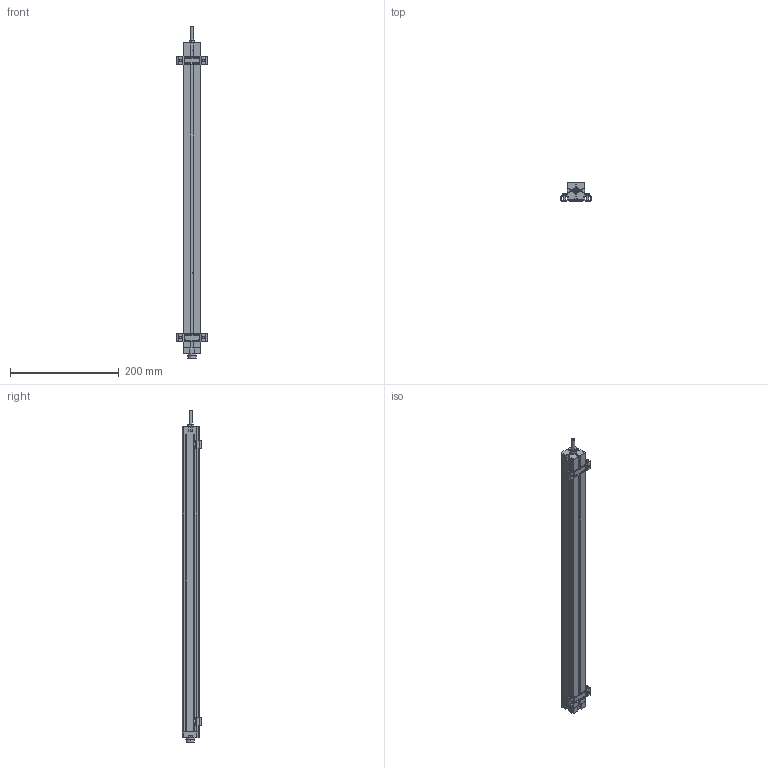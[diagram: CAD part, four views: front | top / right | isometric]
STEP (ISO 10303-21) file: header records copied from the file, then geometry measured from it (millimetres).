
FILE_DESCRIPTION(('STEP AP214'),'1');
FILE_NAME('burster_8719-5500_6k4t9c2r8fkqitrqe98f4eeec.stp','2017-04-19T12:55:02',('TraceParts'),('TraceParts S.A.'),'Spatial InterOp 3D',' ',' ');
FILE_SCHEMA(('automotive_design'));
Length unit declared in the file: millimetre
Products named in the file (1): burster_8719-5500_6k4t9c2r8fkqitrqe98f4eeec
Bounding box: 56 x 35.7 x 611.3 mm (x, y, z)
Volume: 572089.1 mm3; surface area: 102549.5 mm2
Topology: 1 solids, 3 shells, 674 faces, 1681 edges, 1006 vertices
Faces by surface type: plane 387, cylinder 195, cone 58, torus 12, bspline 12, sphere 10
Entity records: 25304 total; most frequent: CARTESIAN_POINT 3772, DIRECTION 3438, ORIENTED_EDGE 3342, EDGE_CURVE 1671, AXIS2_PLACEMENT_3D 1176, LINE 1086, VECTOR 1086, VERTEX_POINT 1006
